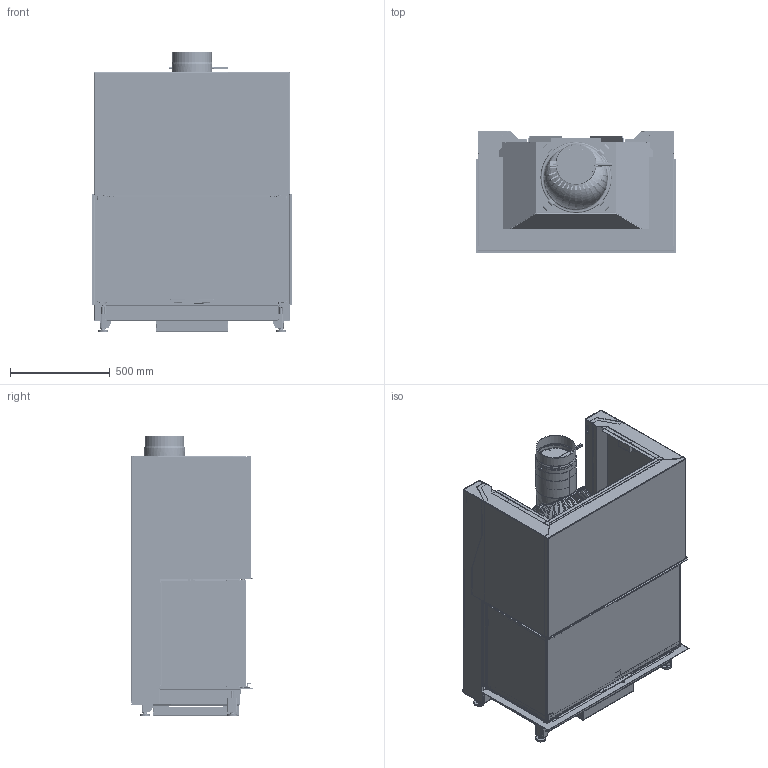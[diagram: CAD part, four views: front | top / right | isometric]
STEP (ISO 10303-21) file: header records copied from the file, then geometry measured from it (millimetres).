
FILE_DESCRIPTION(/* description */ (''),/* implementation_level */ '2;1');
FILE_NAME(/* name */ 'C:\ADSK_DM_WS\CAD_3D\03 Geraete\RIII 55x100x46\Zeichnungen\RIII 55x100x46 Gen.2 ohne Mantel Abgang oben CAD Planung defriten 2021-03209 211124.stp',/* time_stamp */ '2021-11-24T13:04:18+01:00',/* author */ ('CPI'),/* organization */ (''),/* preprocessor_version */ 'ST-DEVELOPER v18.1',/* originating_system */ 'Autodesk Inventor 2022',/* authorisation */ '');
FILE_SCHEMA (('AUTOMOTIVE_DESIGN { 1 0 10303 214 3 1 1 }'));
Products named in the file (8): 2021-03209; 2021-03199; 2021-03207; 2021-03205; 2021-03203; 2021-03069; 2021-03071; 2018-00985
Assembly tree (7 placements, depth 2):
  2021-03209
    2021-03199
    2021-03207
    2021-03205
    2021-03203
    2021-03069
    2021-03071
    2018-00985
Bounding box: 1000 x 612 x 1399 mm (x, y, z)
Volume: 39113691.5 mm3; surface area: 19871624.5 mm2
Topology: 14 solids, 29 shells, 8604 faces, 23852 edges, 15039 vertices
Faces by surface type: plane 5149, cylinder 3026, bspline 274, cone 97, torus 57, sphere 1
Full cylindrical faces by diameter (mm): 3.242 x6, 4.8 x1, 6 x3, 7 x11, 7.9 x2, 8 x8, 10 x10, 10.21 x4, 12 x4, 16 x10, 20 x4, 30 x4, 163 x1, 194 x1, 198 x1, 200 x1, 204 x1, 333 x1, 339 x1
Entity records: 289654 total; most frequent: CARTESIAN_POINT 62075, ORIENTED_EDGE 47638, DIRECTION 46458, EDGE_CURVE 23876, LINE 15874, VECTOR 15874, AXIS2_PLACEMENT_3D 15292, VERTEX_POINT 15035
